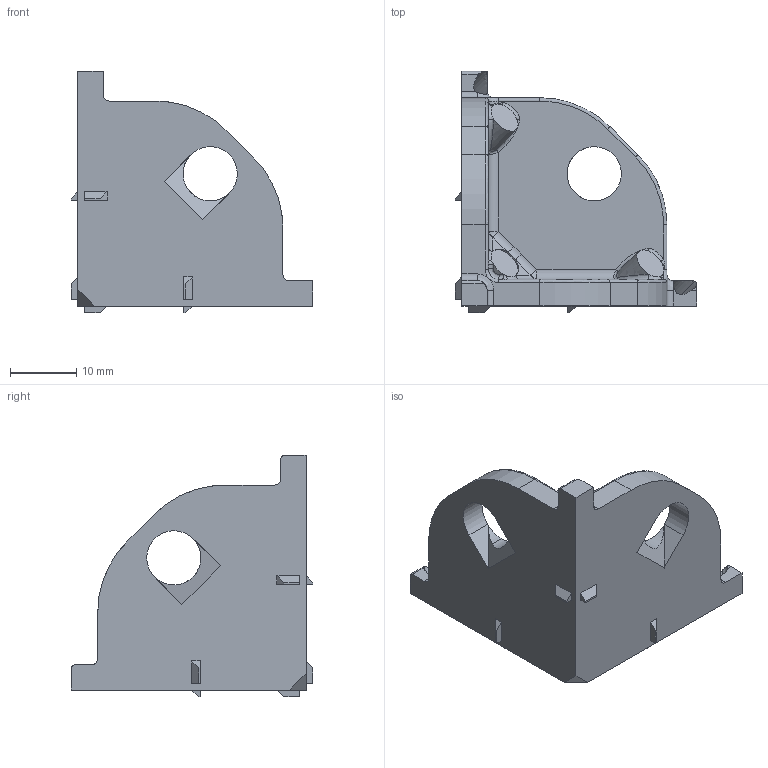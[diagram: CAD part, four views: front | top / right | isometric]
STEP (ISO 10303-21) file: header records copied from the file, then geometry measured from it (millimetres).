
FILE_DESCRIPTION (( 'STEP AP214' ), '1' );
FILE_NAME ('084.310.027.STEP', '2021-02-05T10:52:26', ( '' ), ( '' ), 'SwSTEP 2.0', 'SolidWorks 2018', '' );
FILE_SCHEMA (( 'AUTOMOTIVE_DESIGN' ));
Length unit declared in the file: millimetre
Products named in the file (1): 084.310.027
Bounding box: 36.5 x 36.5 x 36.5 mm (x, y, z)
Volume: 8725 mm3; surface area: 5409.4 mm2
Topology: 1 solids, 1 shells, 189 faces, 482 edges, 299 vertices
Faces by surface type: plane 70, cylinder 53, bspline 48, cone 18
Entity records: 7535 total; most frequent: CARTESIAN_POINT 3293, ORIENTED_EDGE 960, DIRECTION 778, EDGE_CURVE 480, VERTEX_POINT 299, AXIS2_PLACEMENT_3D 277, VECTOR 224, LINE 224
